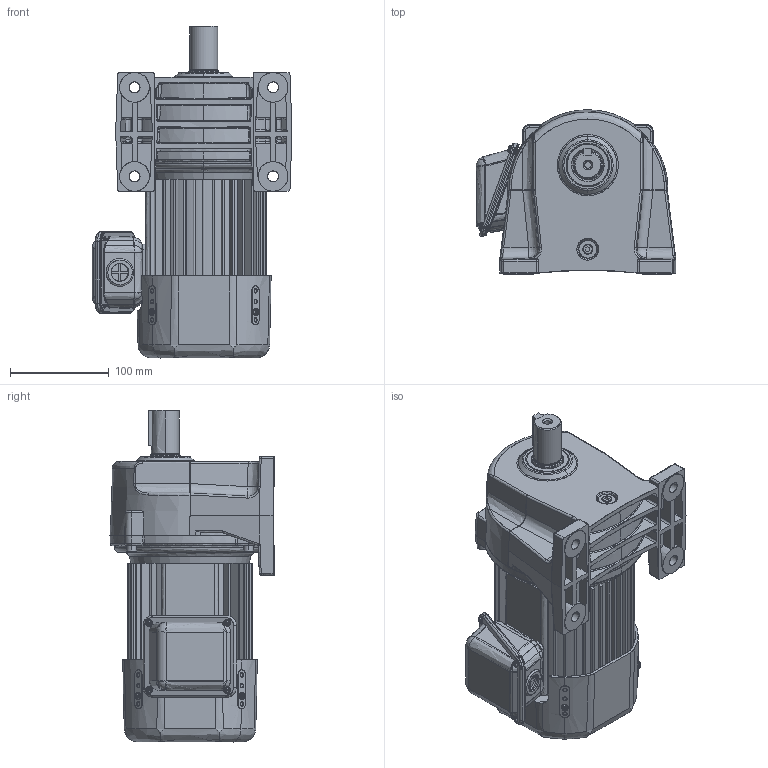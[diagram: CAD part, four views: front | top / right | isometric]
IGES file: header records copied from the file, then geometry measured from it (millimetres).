
Start section: SolidWorks IGES file using analytic representation for surfaces
Global section: file name: \\100.100.100.8\1_共有作業フォルダ\1-5_３Ｄデータ\solidworks\personal-folder\H.Nagayama\SGP1外形\P1(3D)\igs\TML2-04-(30~80).IGS; native system: SolidWorks 2018; preprocessor: SolidWorks 2018; author: sigma-giken; date: 200508.143429; units: millimetre
Bounding box: 202.09 x 166 x 335.5 mm (x, y, z)
Surface area: 484686.2 mm2 (no closed solid volume)
Topology: 0 solids, 0 shells, 1831 faces, 23187 edges, 23158 vertices
Faces by surface type: bspline 986, revolution 845
